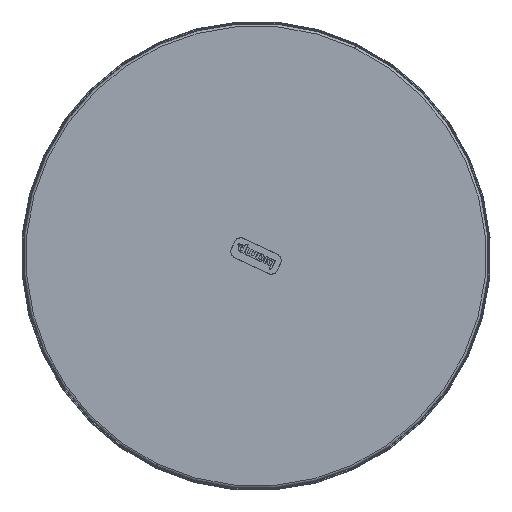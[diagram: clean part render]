
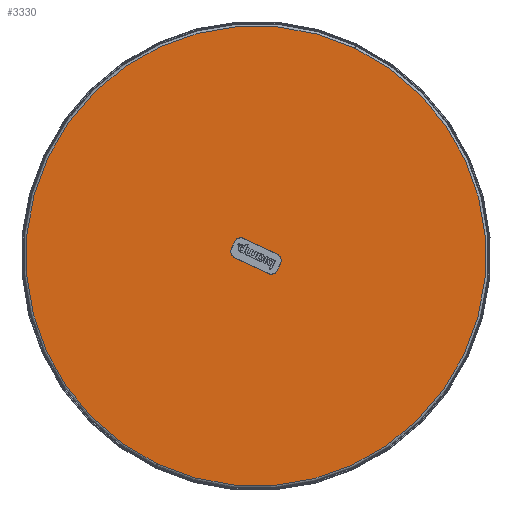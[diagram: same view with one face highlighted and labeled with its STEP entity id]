
A CAD part, front view. The second image highlights one B-rep face of the part: STEP entity #3330.
In plain terms, the highlighted planar face has unit normal (0, -1, 0).
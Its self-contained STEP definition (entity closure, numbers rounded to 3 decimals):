
#567 = CARTESIAN_POINT ( 'NONE',  ( -13.516, -0.8, 4.176 ) ) ;
#967 = B_SPLINE_CURVE_WITH_KNOTS ( 'NONE', 3,
 ( #80070, #98999, #53923, #2092 ),
 .UNSPECIFIED., .F., .F.,
 ( 4, 4 ),
 ( 0., 0.006 ),
 .UNSPECIFIED. ) ;
#2092 = CARTESIAN_POINT ( 'NONE',  ( -11.772, -0.8, 7.846 ) ) ;
#3330 = ADVANCED_FACE ( 'NONE', ( #21998, #94477 ), #63908, .T. ) ;
#6276 = CARTESIAN_POINT ( 'NONE',  ( 10.616, -0.8, -10.276 ) ) ;
#6379 = VERTEX_POINT ( 'NONE', #59822 ) ;
#7905 = ORIENTED_EDGE ( 'NONE', *, *, #16410, .F. ) ;
#8631 = CIRCLE ( 'NONE', #39134, 126.5 ) ;
#9669 = DIRECTION ( 'NONE',  ( 0., -1., 0. ) ) ;
#9904 = LINE ( 'NONE', #74201, #79366 ) ;
#10570 = CARTESIAN_POINT ( 'NONE',  ( -13.604, -0.8, -0.001 ) ) ;
#13448 = DIRECTION ( 'NONE',  ( -0.429, 0., -0.903 ) ) ;
#13942 = CARTESIAN_POINT ( 'NONE',  ( -11.772, -0.8, 7.846 ) ) ;
#14437 = CARTESIAN_POINT ( 'NONE',  ( -6.695, -0.8, 9.651 ) ) ;
#14770 = EDGE_CURVE ( 'NONE', #83985, #89170, #70012, .T. ) ;
#15048 = CARTESIAN_POINT ( 'NONE',  ( -14.141, -0.8, 0.254 ) ) ;
#15991 = EDGE_CURVE ( 'NONE', #50564, #79859, #95430, .T. ) ;
#16410 = EDGE_CURVE ( 'NONE', #6379, #50564, #106466, .T. ) ;
#19693 = ORIENTED_EDGE ( 'NONE', *, *, #93235, .T. ) ;
#20982 = CARTESIAN_POINT ( 'NONE',  ( -54.311, -0.8, -114.248 ) ) ;
#21998 = FACE_BOUND ( 'NONE', #77249, .T. ) ;
#22133 = EDGE_CURVE ( 'NONE', #74281, #84752, #967, .T. ) ;
#23131 = ORIENTED_EDGE ( 'NONE', *, *, #36555, .F. ) ;
#23404 = CARTESIAN_POINT ( 'NONE',  ( 6.695, -0.8, -9.651 ) ) ;
#23520 = DIRECTION ( 'NONE',  ( -0.429, 0., -0.903 ) ) ;
#24038 = LINE ( 'NONE', #15048, #110001 ) ;
#26057 = VECTOR ( 'NONE', #13448, 1000. ) ;
#27705 = EDGE_CURVE ( 'NONE', #89170, #6379, #24038, .T. ) ;
#29167 = DIRECTION ( 'NONE',  ( 0., -1., 0. ) ) ;
#29751 = DIRECTION ( 'NONE',  ( 0., -1., 0. ) ) ;
#30717 = ORIENTED_EDGE ( 'NONE', *, *, #22133, .F. ) ;
#31061 = CARTESIAN_POINT ( 'NONE',  ( 13.604, -0.8, 0.002 ) ) ;
#36555 = EDGE_CURVE ( 'NONE', #82796, #74281, #9904, .T. ) ;
#36918 = CARTESIAN_POINT ( 'NONE',  ( -14.416, -0.8, 2.283 ) ) ;
#38246 = CARTESIAN_POINT ( 'NONE',  ( 11.711, -0.8, 0.901 ) ) ;
#39134 = AXIS2_PLACEMENT_3D ( 'NONE', #110466, #29751, #82079 ) ;
#40182 = B_SPLINE_CURVE_WITH_KNOTS ( 'NONE', 3,
 ( #56647, #67904, #31061, #38246 ),
 .UNSPECIFIED., .F., .F.,
 ( 4, 4 ),
 ( 0., 0.006 ),
 .UNSPECIFIED. ) ;
#42516 = CARTESIAN_POINT ( 'NONE',  ( 8.588, -0.8, -10.551 ) ) ;
#47251 = CARTESIAN_POINT ( 'NONE',  ( 0., -0.8, 0. ) ) ;
#49441 = ORIENTED_EDGE ( 'NONE', *, *, #15991, .F. ) ;
#50564 = VERTEX_POINT ( 'NONE', #88192 ) ;
#50640 = EDGE_CURVE ( 'NONE', #79859, #82796, #40182, .T. ) ;
#51450 = DIRECTION ( 'NONE',  ( 0.903, 0., -0.429 ) ) ;
#52812 = EDGE_LOOP ( 'NONE', ( #108143, #19693 ) ) ;
#53923 = CARTESIAN_POINT ( 'NONE',  ( -10.872, -0.8, 9.738 ) ) ;
#54977 = DIRECTION ( 'NONE',  ( -0.429, 0., -0.903 ) ) ;
#56647 = CARTESIAN_POINT ( 'NONE',  ( 13.516, -0.8, -4.175 ) ) ;
#58726 = ORIENTED_EDGE ( 'NONE', *, *, #97630, .F. ) ;
#59287 = CARTESIAN_POINT ( 'NONE',  ( 0., -0.8, 0. ) ) ;
#59822 = CARTESIAN_POINT ( 'NONE',  ( 6.695, -0.8, -9.651 ) ) ;
#60596 = CARTESIAN_POINT ( 'NONE',  ( -11.711, -0.8, -0.901 ) ) ;
#63647 = ORIENTED_EDGE ( 'NONE', *, *, #50640, .F. ) ;
#63908 = PLANE ( 'NONE',  #113750 ) ;
#64611 = VERTEX_POINT ( 'NONE', #95927 ) ;
#64709 = DIRECTION ( 'NONE',  ( -0.903, 0., 0.429 ) ) ;
#67904 = CARTESIAN_POINT ( 'NONE',  ( 14.416, -0.8, -2.283 ) ) ;
#70012 = B_SPLINE_CURVE_WITH_KNOTS ( 'NONE', 3,
 ( #567, #36918, #10570, #90925 ),
 .UNSPECIFIED., .F., .F.,
 ( 4, 4 ),
 ( 0., 0.006 ),
 .UNSPECIFIED. ) ;
#71201 = VERTEX_POINT ( 'NONE', #20982 ) ;
#74201 = CARTESIAN_POINT ( 'NONE',  ( -9.125, -0.8, 10.806 ) ) ;
#74281 = VERTEX_POINT ( 'NONE', #14437 ) ;
#75345 = AXIS2_PLACEMENT_3D ( 'NONE', #59287, #29167, #23520 ) ;
#77249 = EDGE_LOOP ( 'NONE', ( #83039, #58726, #30717, #23131, #63647, #49441, #7905, #103612 ) ) ;
#79366 = VECTOR ( 'NONE', #64709, 1000. ) ;
#79859 = VERTEX_POINT ( 'NONE', #98693 ) ;
#80015 = DIRECTION ( 'NONE',  ( 0.429, 0., 0.903 ) ) ;
#80017 = CARTESIAN_POINT ( 'NONE',  ( -13.516, -0.8, 4.176 ) ) ;
#80070 = CARTESIAN_POINT ( 'NONE',  ( -6.695, -0.8, 9.651 ) ) ;
#82079 = DIRECTION ( 'NONE',  ( -0.429, 0., -0.903 ) ) ;
#82796 = VERTEX_POINT ( 'NONE', #112798 ) ;
#83039 = ORIENTED_EDGE ( 'NONE', *, *, #14770, .F. ) ;
#83985 = VERTEX_POINT ( 'NONE', #80017 ) ;
#84752 = VERTEX_POINT ( 'NONE', #13942 ) ;
#85901 = VECTOR ( 'NONE', #80015, 1000. ) ;
#88192 = CARTESIAN_POINT ( 'NONE',  ( 11.772, -0.8, -7.846 ) ) ;
#89170 = VERTEX_POINT ( 'NONE', #60596 ) ;
#90925 = CARTESIAN_POINT ( 'NONE',  ( -11.711, -0.8, -0.901 ) ) ;
#93235 = EDGE_CURVE ( 'NONE', #64611, #71201, #8631, .T. ) ;
#94477 = FACE_OUTER_BOUND ( 'NONE', #52812, .T. ) ;
#95430 = LINE ( 'NONE', #6276, #85901 ) ;
#95927 = CARTESIAN_POINT ( 'NONE',  ( 54.311, -0.8, 114.248 ) ) ;
#97630 = EDGE_CURVE ( 'NONE', #84752, #83985, #112783, .T. ) ;
#98451 = EDGE_CURVE ( 'NONE', #71201, #64611, #115083, .T. ) ;
#98693 = CARTESIAN_POINT ( 'NONE',  ( 13.516, -0.8, -4.175 ) ) ;
#98999 = CARTESIAN_POINT ( 'NONE',  ( -8.587, -0.8, 10.551 ) ) ;
#103612 = ORIENTED_EDGE ( 'NONE', *, *, #27705, .F. ) ;
#103838 = CARTESIAN_POINT ( 'NONE',  ( -14.672, -0.8, 1.745 ) ) ;
#104755 = CARTESIAN_POINT ( 'NONE',  ( 11.772, -0.8, -7.846 ) ) ;
#106466 = B_SPLINE_CURVE_WITH_KNOTS ( 'NONE', 3,
 ( #23404, #42516, #113114, #104755 ),
 .UNSPECIFIED., .F., .F.,
 ( 4, 4 ),
 ( 0., 0.006 ),
 .UNSPECIFIED. ) ;
#108143 = ORIENTED_EDGE ( 'NONE', *, *, #98451, .T. ) ;
#110001 = VECTOR ( 'NONE', #51450, 1000. ) ;
#110466 = CARTESIAN_POINT ( 'NONE',  ( 0., -0.8, 0. ) ) ;
#112783 = LINE ( 'NONE', #103838, #26057 ) ;
#112798 = CARTESIAN_POINT ( 'NONE',  ( 11.711, -0.8, 0.901 ) ) ;
#113114 = CARTESIAN_POINT ( 'NONE',  ( 10.872, -0.8, -9.738 ) ) ;
#113750 = AXIS2_PLACEMENT_3D ( 'NONE', #47251, #9669, #54977 ) ;
#115083 = CIRCLE ( 'NONE', #75345, 126.5 ) ;
